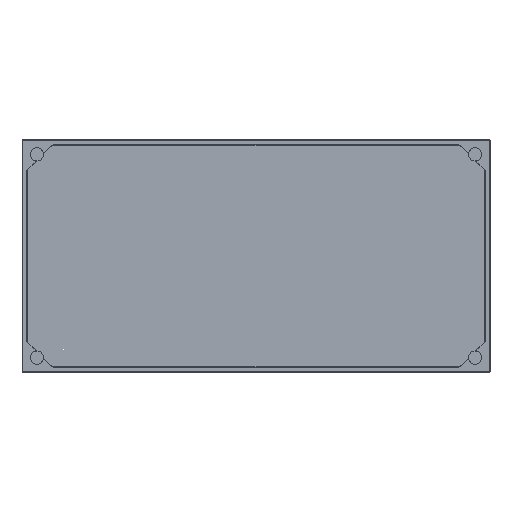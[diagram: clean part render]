
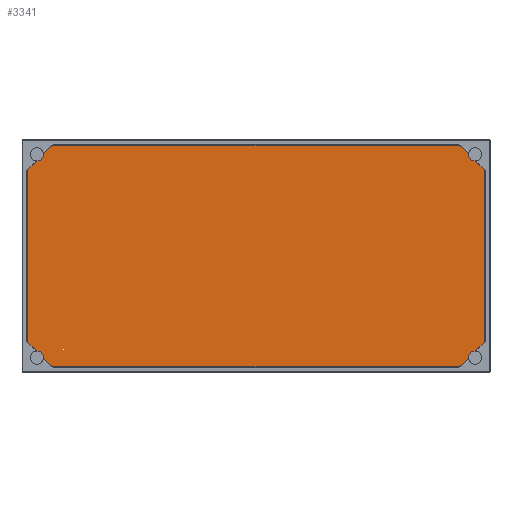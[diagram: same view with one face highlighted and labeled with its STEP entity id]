
A CAD part, front view. The second image highlights one B-rep face of the part: STEP entity #3341.
In plain terms, the highlighted planar face has unit normal (0, -1, 0).
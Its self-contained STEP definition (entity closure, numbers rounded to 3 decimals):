
#138=PLANE('',#3723);
#403=FACE_OUTER_BOUND('',#612,.T.);
#612=EDGE_LOOP('',(#3038,#3039,#3040,#3041));
#997=LINE('',#5623,#1338);
#999=LINE('',#5640,#1340);
#1003=LINE('',#5653,#1344);
#1005=LINE('',#5656,#1346);
#1338=VECTOR('',#4650,10.);
#1340=VECTOR('',#4670,10.);
#1344=VECTOR('',#4686,10.);
#1346=VECTOR('',#4690,10.);
#1623=VERTEX_POINT('',#5604);
#1629=VERTEX_POINT('',#5618);
#1633=VERTEX_POINT('',#5632);
#1638=VERTEX_POINT('',#5648);
#2080=EDGE_CURVE('',#1623,#1629,#997,.T.);
#2088=EDGE_CURVE('',#1633,#1623,#999,.T.);
#2095=EDGE_CURVE('',#1629,#1638,#1003,.T.);
#2097=EDGE_CURVE('',#1638,#1633,#1005,.T.);
#3038=ORIENTED_EDGE('',*,*,#2080,.F.);
#3039=ORIENTED_EDGE('',*,*,#2088,.F.);
#3040=ORIENTED_EDGE('',*,*,#2097,.F.);
#3041=ORIENTED_EDGE('',*,*,#2095,.F.);
#3341=ADVANCED_FACE('',(#403),#138,.F.);
#3723=AXIS2_PLACEMENT_3D('',#5679,#4721,#4722);
#4650=DIRECTION('',(0.,0.,-1.));
#4670=DIRECTION('',(1.,0.,0.));
#4686=DIRECTION('',(-1.,0.,0.));
#4690=DIRECTION('',(0.,0.,1.));
#4721=DIRECTION('center_axis',(0.,1.,0.));
#4722=DIRECTION('ref_axis',(0.,0.,1.));
#5604=CARTESIAN_POINT('',(490.,0.,238.));
#5618=CARTESIAN_POINT('',(490.,0.,-238.));
#5623=CARTESIAN_POINT('',(490.,0.,120.));
#5632=CARTESIAN_POINT('',(-490.,0.,238.));
#5640=CARTESIAN_POINT('',(-246.,0.,238.));
#5648=CARTESIAN_POINT('',(-490.,0.,-238.));
#5653=CARTESIAN_POINT('',(246.,0.,-238.));
#5656=CARTESIAN_POINT('',(-490.,0.,-120.));
#5679=CARTESIAN_POINT('Origin',(0.,0.,0.));
